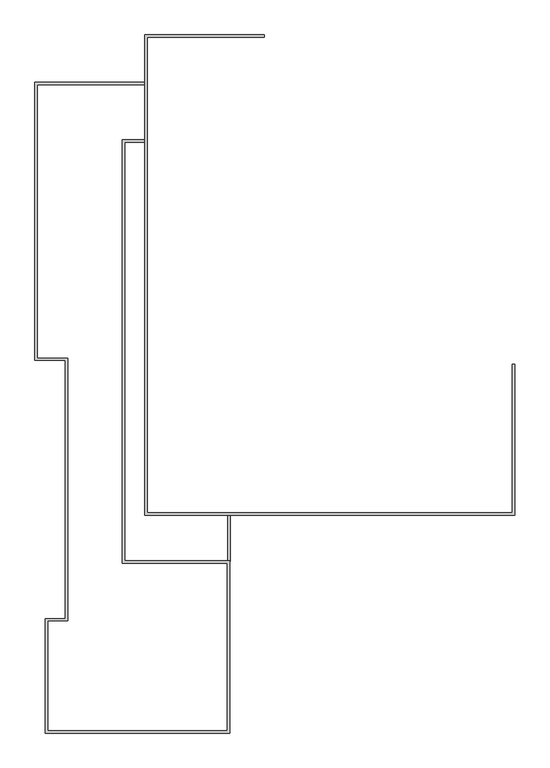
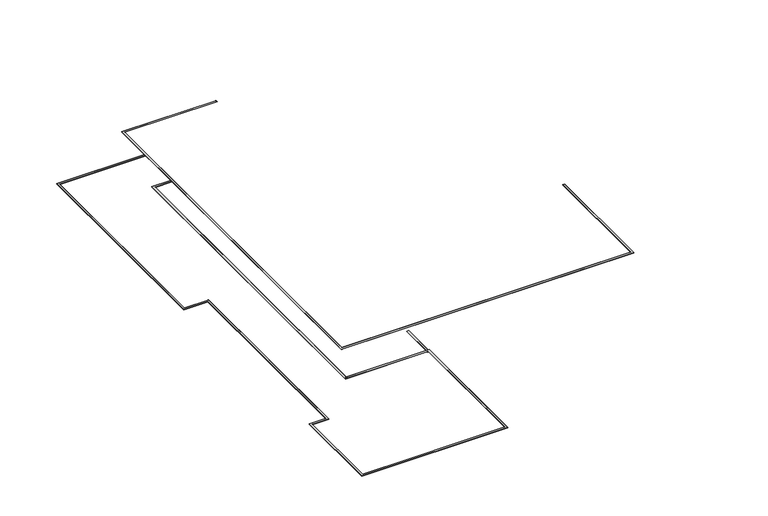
"""IFC4 building model written with IfcOpenShell, lengths in millimetres: proxy geometry, Accrotère R+1 : Accrotère R+1."""

from ifc_helpers import new_model, si_unit, frame, origin, place, context, project, spatial, polyline, outline, extrude, faceted_brep, source, transform, mapped, element, save


def generic_models_6b70fe05(model_context):
    return source(origin(), model_context, "Body", "SolidModel", [
        extrude(outline(polyline([(3703.3082742, -28823.0967815), (3683.3082742, -28823.0967815), (3683.3082742, -28813.0967815), (3713.3082742, -28813.0967815), (3713.3082742, -29029.9576603), (3683.3082742, -29029.9576603), (3683.3082742, -29023.0967815), (3703.3082742, -29023.0967815), (3703.3082742, -28823.0967815)])), frame((0.0, -38559.0543071, 0.0), z_axis=(0.0, 1.0, 0.0), x_axis=(0.0, 0.0, 1.0)), (0.0, 0.0, 1.0), 4050.0000001),
        faceted_brep([(-25843.9891731, 7822.6789506, 4155.3159913), (-25843.9891731, 7822.6789506, 4135.3159913), (-25843.9891731, 7832.6789506, 4135.3159913), (-25843.9891731, 7832.6789506, 4165.3159913), (-25843.9891731, 7615.8180718, 4165.3159913), (-25843.9891731, 7615.8180718, 4135.3159913), (-25843.9891731, 7622.6789506, 4135.3159913), (-25843.9891731, 7622.6789506, 4155.3159913), (-3745.9483345, -21206.25307, 4155.3159913), (-3945.9483345, -21206.25307, 4155.3159913), (-3945.9483345, -21206.25307, 4135.3159913), (-3952.8092133, -21206.25307, 4135.3159913), (-3952.8092133, -21206.25307, 4165.3159913), (-3735.9483345, -21206.25307, 4165.3159913), (-3735.9483345, -21206.25307, 4135.3159913), (-3745.9483345, -21206.25307, 4135.3159913), (-36343.9891745, 7822.6789506, 4155.3159913), (-36343.9891745, 7822.6789506, 4135.3159913), (-36343.9891745, -34509.054307, 4135.3159913), (-3745.9483345, -34509.054307, 4135.3159913), (-3735.9483345, -34519.054307, 4135.3159913), (-36353.9891745, -34519.054307, 4135.3159913), (-36353.9891745, 7832.6789506, 4135.3159913), (-36353.9891745, 7832.6789506, 4165.3159913), (-36353.9891745, -34519.054307, 4165.3159913), (-3735.9483345, -34519.054307, 4165.3159913), (-3952.8092133, -34302.1934282, 4165.3159913), (-36137.1282957, -34302.1934282, 4165.3159913), (-36137.1282957, 7615.8180718, 4165.3159913), (-36137.1282957, 7615.8180718, 4135.3159913), (-36137.1282957, -34302.1934282, 4135.3159913), (-3952.8092133, -34302.1934282, 4135.3159913), (-3945.9483345, -34309.054307, 4135.3159913), (-36143.9891745, -34309.054307, 4135.3159913), (-36143.9891745, 7622.6789506, 4135.3159913), (-36143.9891745, 7622.6789506, 4155.3159913), (-36143.9891745, -34309.054307, 4155.3159913), (-3945.9483345, -34309.054307, 4155.3159913), (-3745.9483345, -34509.054307, 4155.3159913), (-36343.9891745, -34509.054307, 4155.3159913)], [[[0, 1, 2, 3, 4, 5, 6, 7]], [[8, 9, 10, 11, 12, 13, 14, 15]], [[1, 0, 16, 17]], [[2, 1, 17, 18, 19, 15, 14, 20, 21, 22]], [[3, 2, 22, 23]], [[4, 3, 23, 24, 25, 13, 12, 26, 27, 28]], [[5, 4, 28, 29]], [[6, 5, 29, 30, 31, 11, 10, 32, 33, 34]], [[7, 6, 34, 35]], [[0, 7, 35, 36, 37, 9, 8, 38, 39, 16]], [[17, 16, 39, 18]], [[23, 22, 21, 24]], [[29, 28, 27, 30]], [[35, 34, 33, 36]], [[18, 39, 38, 19]], [[24, 21, 20, 25]], [[30, 27, 26, 31]], [[36, 33, 32, 37]], [[19, 38, 8, 15]], [[25, 20, 14, 13]], [[31, 26, 12, 11]], [[37, 32, 10, 9]]]),
        faceted_brep([(-36293.9891767, 3634.6445068, 3953.3082742), (-36293.9891767, 3634.6445068, 3933.3082742), (-36293.9891767, 3644.6445068, 3933.3082742), (-36293.9891767, 3644.6445068, 3963.3082742), (-36293.9891767, 3427.783628, 3963.3082742), (-36293.9891767, 3427.783628, 3933.3082742), (-36293.9891767, 3434.6445068, 3933.3082742), (-36293.9891767, 3434.6445068, 3953.3082742), (-46039.2374821, 3634.6445068, 3953.3082742), (-46039.2374821, 3634.6445068, 3933.3082742), (-46049.2374821, 3644.6445068, 3933.3082742), (-46049.2374821, 3644.6445068, 3963.3082742), (-45832.3766033, 3427.783628, 3963.3082742), (-45832.3766033, 3427.783628, 3933.3082742), (-45839.2374821, 3434.6445068, 3953.3082742), (-45839.2374821, -20666.6974183, 3953.3082742), (-43142.9002047, -20666.6974183, 3953.3082742), (-43142.9002047, -43837.1378728, 3953.3082742), (-44941.7005236, -43837.1378747, 3953.3082742), (-44941.7005236, -53521.1523226, 3953.3082742), (-29083.0967808, -53521.1523226, 3953.3082742), (-29083.0967808, -38759.0543052, 3953.3082742), (-38113.9891755, -38759.0543052, 3953.3082742), (-38113.9891755, -38559.0543052, 3953.3082742), (-28883.0967808, -38559.0543052, 3953.3082742), (-28883.0967808, -53721.1523226, 3953.3082742), (-45141.7005236, -53721.1523226, 3953.3082742), (-45141.7005236, -43637.137875, 3953.3082742), (-43342.9002047, -43637.137873, 3953.3082742), (-43342.9002047, -20866.6974183, 3953.3082742), (-46039.2374821, -20866.6974183, 3953.3082742), (-46039.2374821, -20866.6974183, 3933.3082742), (-46049.2374821, -20876.6974183, 3933.3082742), (-46049.2374821, -20876.6974183, 3963.3082742), (-45832.3766033, -20659.8365395, 3963.3082742), (-45832.3766033, -20659.8365395, 3933.3082742), (-43342.9002047, -20866.6974183, 3933.3082742), (-43352.9002047, -20876.6974183, 3933.3082742), (-43352.9002047, -20876.6974183, 3963.3082742), (-43136.0393259, -20659.8365395, 3963.3082742), (-43136.0393259, -20659.8365395, 3933.3082742), (-43342.9002047, -43637.137873, 3933.3082742), (-43352.9002047, -43627.137873, 3933.3082742), (-43352.9002047, -43627.137873, 3963.3082742), (-43136.0393259, -43843.9987516, 3963.3082742), (-43136.0393259, -43843.9987516, 3933.3082742), (-45141.7005236, -43637.137875, 3933.3082742), (-45151.7005236, -43627.137875, 3933.3082742), (-45151.7005236, -43627.137875, 3963.3082742), (-44934.8396448, -43843.9987535, 3963.3082742), (-44934.8396448, -43843.9987535, 3933.3082742), (-45141.7005236, -53721.1523226, 3933.3082742), (-45151.7005236, -53731.1523226, 3933.3082742), (-45151.7005236, -53731.1523226, 3963.3082742), (-44934.8396448, -53514.2914438, 3963.3082742), (-44934.8396448, -53514.2914438, 3933.3082742), (-28883.0967808, -53721.1523226, 3933.3082742), (-28873.0967808, -53731.1523226, 3933.3082742), (-28873.0967808, -53731.1523226, 3963.3082742), (-29089.9576596, -53514.2914438, 3963.3082742), (-29089.9576596, -53514.2914438, 3933.3082742), (-38243.9891755, -38549.0543052, 3933.3082742), (-38243.9891755, -38559.0543052, 3933.3082742), (-38243.9891755, -38559.0543052, 3953.3082742), (-38243.9891755, -38549.0543052, 3953.3082742), (-38243.9891755, -38759.0543052, 3953.3082742), (-38243.9891755, -38759.0543052, 3933.3082742), (-38243.9891755, -38765.915184, 3933.3082742), (-38243.9891755, -38765.915184, 3963.3082742), (-38243.9891755, -38759.0543052, 3963.3082742), (-28883.0967808, -38559.0543052, 3933.3082742), (-28873.0967808, -38549.0543052, 3933.3082742), (-28873.0967808, -38549.0543052, 3963.3082742), (-29089.9576596, -38765.915184, 3963.3082742), (-29089.9576596, -38765.915184, 3933.3082742), (-45839.2374821, 3434.6445068, 3933.3082742), (-45839.2374821, -20666.6974183, 3933.3082742), (-43142.9002047, -20666.6974183, 3933.3082742), (-43142.9002047, -43837.1378728, 3933.3082742), (-44941.7005236, -43837.1378747, 3933.3082742), (-44941.7005236, -53521.1523226, 3933.3082742), (-29083.0967808, -53521.1523226, 3933.3082742), (-29083.0967808, -38759.0543052, 3933.3082742), (-38123.9891755, -38559.0543052, 3933.3082742), (-38123.9891755, -38559.0543052, 3953.3082742), (-38113.9891755, -38559.0543052, 3933.3082742), (-38113.9891755, -38549.0543052, 3933.3082742), (-38113.9891755, -38549.0543052, 3963.3082742), (-38123.9891755, -38549.0543052, 3933.3082742), (-38123.9891755, -38549.0543052, 3953.3082742), (-38123.9891755, -38759.0543052, 3953.3082742), (-38123.9891755, -38759.0543052, 3933.3082742), (-38113.9891755, -38759.0543052, 3933.3082742), (-38330.8500543, -38759.0543052, 3963.3082742), (-38330.8500543, -38759.0543052, 3933.3082742), (-38323.9891755, -38759.0543052, 3933.3082742), (-38323.9891755, -38759.0543052, 3953.3082742), (-36293.9891767, -1610.9999981, 3953.3082742), (-36293.9891767, -1410.9999981, 3953.3082742), (-36293.9891767, -1410.9999981, 3933.3082742), (-36293.9891767, -1404.1391193, 3933.3082742), (-36293.9891767, -1404.1391193, 3963.3082742), (-36293.9891767, -1620.9999981, 3963.3082742), (-36293.9891767, -1620.9999981, 3933.3082742), (-36293.9891767, -1610.9999981, 3933.3082742), (-38123.9891755, -1610.9999981, 3953.3082742), (-38123.9891755, -1610.9999981, 3933.3082742), (-38113.9891755, -1620.9999981, 3933.3082742), (-38113.9891755, -1620.9999981, 3963.3082742), (-38330.8500543, -1404.1391193, 3963.3082742), (-38330.8500543, -1404.1391193, 3933.3082742), (-38323.9891755, -1410.9999981, 3933.3082742), (-38323.9891755, -1410.9999981, 3953.3082742)], [[[0, 1, 2, 3, 4, 5, 6, 7]], [[1, 0, 8, 9]], [[3, 2, 10, 11]], [[5, 4, 12, 13]], [[0, 7, 14, 15, 16, 17, 18, 19, 20, 21, 22, 23, 24, 25, 26, 27, 28, 29, 30, 8]], [[9, 8, 30, 31]], [[10, 32, 33, 11]], [[12, 34, 35, 13]], [[36, 31, 30, 29]], [[32, 37, 38, 33]], [[34, 39, 40, 35]], [[41, 36, 29, 28]], [[37, 42, 43, 38]], [[39, 44, 45, 40]], [[46, 41, 28, 27]], [[42, 47, 48, 43]], [[44, 49, 50, 45]], [[51, 46, 27, 26]], [[47, 52, 53, 48]], [[49, 54, 55, 50]], [[56, 51, 26, 25]], [[52, 57, 58, 53]], [[54, 59, 60, 55]], [[61, 62, 63, 64]], [[65, 66, 67, 68, 69]], [[70, 56, 25, 24]], [[57, 71, 72, 58]], [[59, 73, 74, 60]], [[7, 6, 75, 14]], [[15, 14, 75, 76]], [[16, 15, 76, 77]], [[17, 16, 77, 78]], [[18, 17, 78, 79]], [[19, 18, 79, 80]], [[20, 19, 80, 81]], [[21, 20, 81, 82]], [[63, 62, 83, 84]], [[70, 24, 23, 85]], [[72, 71, 86, 87]], [[88, 61, 64, 89]], [[73, 68, 67, 74]], [[66, 65, 90, 91]], [[21, 82, 92, 22]], [[93, 94, 95, 96, 65, 69]], [[97, 98, 99, 100, 101, 102, 103, 104]], [[90, 84, 83, 91]], [[105, 106, 88, 89]], [[104, 103, 107, 86, 71, 57, 52, 47, 42, 37, 32, 10, 2, 1, 9, 31, 36, 41, 46, 51, 56, 70, 85, 92, 82, 81, 80, 79, 78, 77, 76, 75, 6, 5, 13, 35, 40, 45, 50, 55, 60, 74, 67, 66, 91, 83, 62, 61, 88, 106]], [[92, 85, 23, 22]], [[107, 108, 87, 86]], [[102, 101, 109, 93, 69, 68, 73, 59, 54, 49, 44, 39, 34, 12, 4, 3, 11, 33, 38, 43, 48, 53, 58, 72, 87, 108]], [[94, 93, 109, 110]], [[95, 94, 110, 100, 99, 111]], [[96, 95, 111, 112]], [[98, 97, 105, 89, 64, 63, 84, 90, 65, 96, 112]], [[97, 104, 106, 105]], [[103, 102, 108, 107]], [[101, 100, 110, 109]], [[99, 98, 112, 111]]]),
    ])


if __name__ == "__main__":
    model = new_model("IFC4")
    model_context = context("Model", 3, world=origin())
    ifc_project = project(units=[si_unit("LENGTHUNIT", "METRE", prefix="MILLI")], contexts=[model_context])
    site = spatial("IfcSite", under=ifc_project)
    building = spatial("IfcBuilding", under=site)
    placement = place(None, origin())
    generic_models_shape = generic_models_6b70fe05(model_context)
    element("IfcBuildingElementProxy", 1, Name="Accrotère R+1 : Accrotère R+1", ObjectType="Accrotère R+1 : Accrotère R+1", at=placement, inside=building, context=model_context, shape_type="MappedRepresentation", body=[
        mapped(generic_models_shape, transform((0.0, 0.0, 0.0), x_axis=(1.0, 0.0, 0.0), y_axis=(0.0, 1.0, 0.0), z_axis=(0.0, 0.0, 1.0))),
    ])
    save(model, "model.ifc")
